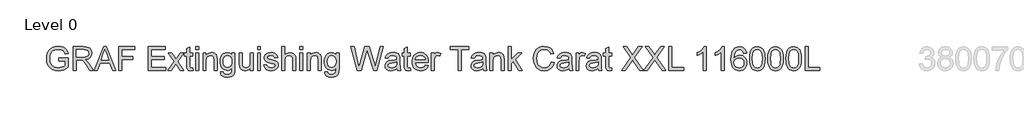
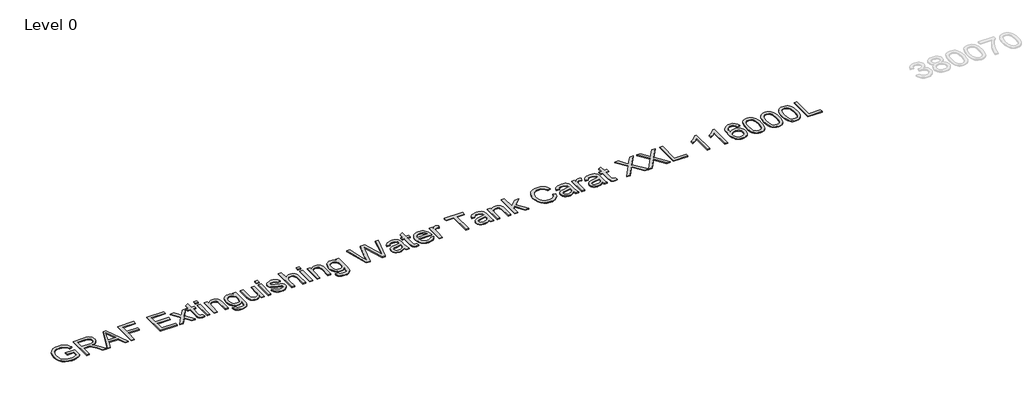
# One storey, part 20 of 37: 1 proxy.
"""IFC4 building model written with IfcOpenShell, lengths in millimetres."""

from ifc_helpers import new_model, si_unit, origin, origin_with_axes, place, context, project, spatial, polyline, outline, extrude, element, save

model = new_model("IFC4")

# Units and contexts
model_context = context("Model", 3, world=origin())
ifc_project = project(units=[si_unit("LENGTHUNIT", "METRE", prefix="MILLI")], contexts=[model_context])

# Site, building, storey
site = spatial("IfcSite", under=ifc_project)
building = spatial("IfcBuilding", under=site)
storey = spatial("IfcBuildingStorey", under=building, Name="Level 0", Elevation=0.0)

# Proxy
placement = place(None, origin())
element("IfcBuildingElementProxy", 1, Name="300mm Arial", ObjectType="300mm Arial", at=placement, inside=storey, context=model_context, shape_type="SweptSolid", body=[
    extrude(outline(polyline([(16759.0059613, -37583.2545597), (16759.0059613, -37545.5834434), (16881.4370893, -37545.5834434), (16881.4370893, -37658.2289103), (16851.6846329, -37678.9222726), (16820.9940775, -37693.7663111), (16789.4389993, -37702.7058436), (16757.0929749, -37705.6856877), (16714.8325307, -37700.949207), (16676.6371825, -37686.739765), (16644.9073605, -37663.5540022), (16622.0434945, -37631.8885595), (16608.2203285, -37593.9047435), (16603.6126065, -37551.7638609), (16608.2019344, -37509.3194757), (16621.9699181, -37469.8365406), (16644.3463404, -37436.717964), (16674.7609844, -37413.3666543), (16711.8067013, -37399.5158972), (16754.0763425, -37394.8989782), (16785.1071888, -37397.5753197), (16813.0110382, -37405.6043443), (16836.5095006, -37418.4066377), (16854.3241862, -37435.4027859), (16867.5035587, -37457.4113262), (16877.0960817, -37485.2507962), (16842.3680214, -37495.0364573), (16834.6149083, -37475.1800266), (16825.1879322, -37460.1980323), (16812.7167326, -37448.9040551), (16795.830949, -37440.1116754), (16775.6986068, -37434.4554897), (16753.4877313, -37432.5700945), (16727.4876713, -37434.6026425), (16705.2584018, -37440.7002866), (16686.8826961, -37450.0996716), (16672.4433278, -37462.0374423), (16653.0559467, -37491.0633317), (16644.2267788, -37519.50061), (16641.2837228, -37550.2187566), (16644.824587, -37586.2436009), (16655.4471796, -37615.8856927), (16672.8296039, -37638.9334997), (16696.6499631, -37655.1754898), (16724.5262213, -37664.804801), (16754.0763425, -37668.0145714), (16780.168373, -37665.5957473), (16805.6166101, -37658.3392749), (16827.7171209, -37648.3420817), (16843.765973, -37637.701095), (16843.765973, -37583.2545597), (16759.0059613, -37583.2545597)])), origin_with_axes(), (0.0, 0.0, 1.0), 10.0),
    extrude(outline(polyline([(16942.6526533, -37700.9767982), (16942.6526533, -37399.6078677), (17072.5149976, -37399.6078677), (17107.4178018, -37401.6404158), (17132.8108566, -37407.7380598), (17151.3705032, -37418.9952489), (17165.7730833, -37436.5064318), (17175.0161185, -37458.2206666), (17178.0971302, -37482.087011), (17172.9927675, -37511.7750881), (17157.6796794, -37536.3863935), (17146.0799003, -37546.4157764), (17131.6980135, -37554.4310054), (17094.5879173, -37564.4190016), (17115.9986494, -37580.532233), (17146.532855, -37619.3069952), (17196.7855355, -37700.9767982), (17153.0075781, -37700.9767982), (17113.7913574, -37638.5104354), (17085.4644438, -37597.1604991), (17065.5620278, -37577.6259652), (17047.6461747, -37570.4522663), (17025.7939842, -37569.1278911), (16980.3237696, -37569.1278911), (16980.3237696, -37700.9767982), (16942.6526533, -37700.9767982)]), holes=[polyline([(16980.3237696, -37531.4567748), (17064.6423229, -37531.4567748), (17088.8581552, -37530.1232026), (17107.6477281, -37526.1224859), (17121.7927908, -37519.1879103), (17132.0750926, -37509.0527613), (17138.3382835, -37496.7930938), (17140.4260139, -37483.4849626), (17136.4436913, -37465.109257), (17124.4967235, -37450.3020067), (17103.941317, -37440.5347397), (17074.1336783, -37437.278984), (16980.3237696, -37437.278984), (16980.3237696, -37531.4567748)])]), origin_with_axes(), (0.0, 0.0, 1.0), 10.0),
    extrude(outline(polyline([(17208.9256414, -37700.9767982), (17329.2230538, -37399.6078677), (17361.3023638, -37399.6078677), (17481.5997762, -37700.9767982), (17441.7949443, -37700.9767982), (17407.2876132, -37606.7990074), (17283.164228, -37606.7990074), (17248.7304732, -37700.9767982), (17208.9256414, -37700.9767982)]), holes=[polyline([(17296.996591, -37569.1278911), (17393.5288265, -37569.1278911), (17366.3791353, -37495.0364573), (17345.2627088, -37437.278984), (17326.500727, -37488.5617342), (17296.996591, -37569.1278911)])]), origin_with_axes(), (0.0, 0.0, 1.0), 10.0),
    extrude(outline(polyline([(17521.8460665, -37700.9767982), (17521.8460665, -37399.6078677), (17724.3283166, -37399.6078677), (17724.3283166, -37437.278984), (17559.5171828, -37437.278984), (17559.5171828, -37526.7478853), (17700.7838689, -37526.7478853), (17700.7838689, -37564.4190016), (17559.5171828, -37564.4190016), (17559.5171828, -37700.9767982), (17521.8460665, -37700.9767982)])), origin_with_axes(), (0.0, 0.0, 1.0), 10.0),
    extrude(outline(polyline([(17893.84834, -37700.9767982), (17893.84834, -37399.6078677), (18110.4572587, -37399.6078677), (18110.4572587, -37437.278984), (17931.5194563, -37437.278984), (17931.5194563, -37526.7478853), (18101.0394797, -37526.7478853), (18101.0394797, -37564.4190016), (17931.5194563, -37564.4190016), (17931.5194563, -37663.3056819), (18115.1661483, -37663.3056819), (18115.1661483, -37700.9767982), (17893.84834, -37700.9767982)])), origin_with_axes(), (0.0, 0.0, 1.0), 10.0),
    extrude(outline(polyline([(18143.4194855, -37700.9767982), (18223.9120661, -37589.7292828), (18148.1283751, -37479.6589899), (18193.4514369, -37479.6589899), (18230.0189072, -37532.6339972), (18247.0886318, -37557.6499729), (18261.877488, -37537.1957339), (18303.5217298, -37479.6589899), (18348.8447916, -37479.6589899), (18269.2351279, -37589.7292828), (18345.9017357, -37700.9767982), (18300.5786739, -37700.9767982), (18254.4462717, -37634.0958515), (18245.9849858, -37621.8821692), (18188.7425473, -37700.9767982), (18143.4194855, -37700.9767982)])), origin_with_axes(), (0.0, 0.0, 1.0), 10.0),
    extrude(outline(polyline([(18458.9150846, -37669.5596758), (18463.6239741, -37702.0804442), (18435.4442133, -37705.6856877), (18417.3628132, -37704.1221892), (18403.8799381, -37699.4316938), (18394.3517944, -37692.2028126), (18388.1345887, -37683.0241568), (18384.7132861, -37667.2604133), (18383.572852, -37640.276269), (18383.572852, -37517.3301062), (18355.3195147, -37517.3301062), (18355.3195147, -37479.6589899), (18383.572852, -37479.6589899), (18383.572852, -37425.8746422), (18421.2439683, -37403.7281461), (18421.2439683, -37479.6589899), (18458.9150846, -37479.6589899), (18458.9150846, -37517.3301062), (18421.2439683, -37517.3301062), (18421.2439683, -37639.172623), (18423.230531, -37658.5967923), (18429.668466, -37665.4761856), (18442.5075476, -37668.0145714), (18458.9150846, -37669.5596758)])), origin_with_axes(), (0.0, 0.0, 1.0), 10.0),
    extrude(outline(polyline([(18496.5862009, -37437.278984), (18496.5862009, -37399.6078677), (18534.2573172, -37399.6078677), (18534.2573172, -37437.278984), (18496.5862009, -37437.278984)])), origin_with_axes(), (0.0, 0.0, 1.0), 10.0),
    extrude(outline(polyline([(18496.5862009, -37700.9767982), (18496.5862009, -37479.6589899), (18534.2573172, -37479.6589899), (18534.2573172, -37700.9767982), (18496.5862009, -37700.9767982)])), origin_with_axes(), (0.0, 0.0, 1.0), 10.0),
    extrude(outline(polyline([(18590.7639916, -37700.9767982), (18590.7639916, -37479.6589899), (18628.435108, -37479.6589899), (18628.435108, -37510.5610775), (18641.5225099, -37494.981275), (18657.2402682, -37483.8528446), (18675.5883827, -37477.1757864), (18696.5668535, -37474.9501003), (18715.1356972, -37476.7435251), (18732.1410424, -37482.1237992), (18746.3228933, -37490.4195382), (18756.4212541, -37500.9593574), (18767.7152313, -37528.6608716), (18769.7017941, -37565.0811892), (18769.7017941, -37700.9767982), (18732.0306778, -37700.9767982), (18732.0306778, -37570.1579607), (18727.6896703, -37536.8278519), (18721.6839967, -37526.9042351), (18712.3489911, -37519.2063044), (18700.3836292, -37514.2674886), (18686.4868868, -37512.6212166), (18664.4231641, -37516.3184307), (18645.6151971, -37527.4100729), (18638.0989081, -37536.4645685), (18632.7301302, -37548.8391991), (18628.435108, -37583.5488653), (18628.435108, -37700.9767982), (18590.7639916, -37700.9767982)])), origin_with_axes(), (0.0, 0.0, 1.0), 10.0),
    extrude(outline(polyline([(18812.0817999, -37719.8123563), (18849.7529163, -37724.5212459), (18853.9099828, -37736.2934697), (18861.9665985, -37744.3868736), (18877.8039184, -37750.6776557), (18898.5340688, -37752.7745831), (18920.6437767, -37750.4017442), (18937.0881019, -37743.2832276), (18948.4924438, -37731.8788858), (18955.4822017, -37716.6485712), (18958.0573756, -37672.7234609), (18945.5217966, -37685.084296), (18931.5330838, -37693.9134639), (18916.091237, -37699.2109646), (18899.1962564, -37700.9767982), (18878.5419816, -37698.9212575), (18860.3571148, -37692.7546356), (18844.6416558, -37682.4769323), (18831.3956047, -37668.0881478), (18820.8856759, -37650.8252852), (18813.378584, -37631.9253477), (18808.8743288, -37611.3883353), (18807.3729104, -37589.214248), (18810.067646, -37558.7996041), (18818.1518529, -37530.8313754), (18831.3404224, -37507.1305779), (18849.3482461, -37489.5182274), (18871.5591215, -37478.5921321), (18897.3568464, -37474.9501003), (18914.9737955, -37477.0102395), (18930.9628667, -37483.190657), (18945.3240601, -37493.4913529), (18958.0573756, -37507.9123271), (18958.0573756, -37479.6589899), (18995.7284919, -37479.6589899), (18995.7284919, -37670.7368982), (18993.153318, -37714.8551464), (18985.4277961, -37743.908627), (18972.1196649, -37763.1764465), (18952.7966631, -37777.9377116), (18927.881855, -37787.3187024), (18897.7983048, -37790.4456994), (18862.7483477, -37786.0403125), (18835.148001, -37772.8241518), (18824.7530354, -37762.9028343), (18817.44368, -37750.7604292), (18813.2199349, -37736.3969365), (18812.0817999, -37719.8123563)]), holes=[polyline([(18845.0440267, -37586.6390741), (18849.0631375, -37621.1923905), (18861.1204699, -37644.9483703), (18879.2478552, -37658.716354), (18901.4771248, -37663.3056819), (18923.5408474, -37658.7439451), (18941.7602032, -37645.0587349), (18953.9830825, -37621.6062577), (18958.0573756, -37587.7427201), (18953.8635209, -37555.0839959), (18941.2819567, -37531.5671394), (18922.7958864, -37517.3576973), (18900.8885136, -37512.6212166), (18879.3766139, -37517.2841209), (18861.3411991, -37531.2728338), (18849.1183198, -37554.4402024), (18845.0440267, -37586.6390741)])]), origin_with_axes(), (0.0, 0.0, 1.0), 10.0),
    extrude(outline(polyline([(19193.5018525, -37700.9767982), (19193.5018525, -37662.9377999), (19179.8718246, -37681.6400008), (19163.9977165, -37694.9987158), (19145.8795283, -37703.0139447), (19125.5172598, -37705.6856877), (19107.1691453, -37703.8094895), (19090.0902237, -37698.180895), (19075.76122, -37689.7196091), (19065.6628592, -37679.3453369), (19054.4424584, -37651.6070344), (19052.2351664, -37616.5846685), (19052.2351664, -37479.6589899), (19089.9062827, -37479.6589899), (19089.9062827, -37598.8527563), (19092.1871511, -37637.2596366), (19097.6777899, -37650.0711271), (19107.0863719, -37659.8108029), (19119.7874978, -37665.9636293), (19135.1557681, -37668.0145714), (19151.4069552, -37665.917644), (19166.6096787, -37659.6268619), (19179.1452577, -37649.7216392), (19187.3950114, -37636.78139), (19191.9751423, -37619.0586749), (19193.5018525, -37594.8060544), (19193.5018525, -37479.6589899), (19231.1729689, -37479.6589899), (19231.1729689, -37700.9767982), (19193.5018525, -37700.9767982)])), origin_with_axes(), (0.0, 0.0, 1.0), 10.0),
    extrude(outline(polyline([(19282.9707538, -37437.278984), (19282.9707538, -37399.6078677), (19320.6418701, -37399.6078677), (19320.6418701, -37437.278984), (19282.9707538, -37437.278984)])), origin_with_axes(), (0.0, 0.0, 1.0), 10.0),
    extrude(outline(polyline([(19282.9707538, -37700.9767982), (19282.9707538, -37479.6589899), (19320.6418701, -37479.6589899), (19320.6418701, -37700.9767982), (19282.9707538, -37700.9767982)])), origin_with_axes(), (0.0, 0.0, 1.0), 10.0),
    extrude(outline(polyline([(19363.0218759, -37635.0523446), (19400.6929922, -37630.3434551), (19406.6342865, -37646.4566865), (19418.1305988, -37658.3024867), (19435.2555057, -37665.5865502), (19458.0825835, -37668.0145714), (19480.6337498, -37665.7888853), (19496.4894638, -37659.1118271), (19505.8704547, -37649.4365307), (19508.9974516, -37638.2161298), (19505.8520606, -37628.6144097), (19496.4158874, -37621.293558), (19457.6411251, -37610.5514038), (19400.9137214, -37592.1205158), (19386.5571266, -37582.8590866), (19376.1552632, -37570.5994191), (19369.8368899, -37556.1232626), (19367.7307655, -37540.2123663), (19369.4230226, -37525.6166481), (19374.4997942, -37512.1429701), (19382.5012276, -37500.324761), (19392.9674703, -37490.6954497), (19416.9165882, -37479.5486253), (19449.326992, -37474.9501003), (19473.846327, -37476.7987074), (19495.1650886, -37482.3445284), (19512.3083896, -37491.0449376), (19524.3013426, -37502.357309), (19532.2475937, -37517.118574), (19537.2507888, -37536.1656643), (19499.5796725, -37540.8745539), (19494.8247977, -37529.0195566), (19485.4162157, -37520.0892211), (19471.261956, -37514.4882178), (19452.270048, -37512.6212166), (19430.6385866, -37514.4054443), (19416.2176124, -37519.7581274), (19408.1058144, -37527.4836493), (19405.4018818, -37536.3863935), (19409.8900421, -37547.349277), (19423.9431343, -37555.6634101), (19456.3903263, -37563.6832376), (19511.6829902, -37581.4151497), (19526.2879054, -37589.8948297), (19537.3611534, -37601.5015067), (19544.3417143, -37616.2719688), (19546.6685679, -37634.2430043), (19543.9370441, -37652.821045), (19535.7424727, -37670.2954398), (19522.3975533, -37685.2958281), (19504.2149857, -37696.4518496), (19482.2524306, -37703.3772282), (19457.5675487, -37705.6856877), (19419.5837327, -37701.2343156), (19391.8638243, -37687.8801992), (19373.35936, -37665.7704912), (19363.0218759, -37635.0523446)])), origin_with_axes(), (0.0, 0.0, 1.0), 10.0),
    extrude(outline(polyline([(19589.0485738, -37700.9767982), (19589.0485738, -37399.6078677), (19626.7196901, -37399.6078677), (19626.7196901, -37510.4139247), (19640.5566516, -37494.8985015), (19656.0950674, -37483.8160564), (19673.3349374, -37477.1665894), (19692.2762616, -37474.9501003), (19715.029763, -37477.3689245), (19734.5826911, -37484.6253968), (19749.9785526, -37496.1493003), (19760.2608543, -37511.3704179), (19766.0549957, -37532.2845093), (19767.9863762, -37560.8873344), (19767.9863762, -37700.9767982), (19730.3152599, -37700.9767982), (19730.3152599, -37564.7868836), (19727.3170216, -37541.2056477), (19718.3223069, -37525.0556281), (19703.8277563, -37515.7298195), (19684.3300105, -37512.6212166), (19668.4099172, -37514.718144), (19653.4647111, -37521.0089261), (19641.085482, -37530.8865577), (19632.8633194, -37543.7440334), (19628.2555974, -37560.8321521), (19626.7196901, -37583.4017125), (19626.7196901, -37700.9767982), (19589.0485738, -37700.9767982)])), origin_with_axes(), (0.0, 0.0, 1.0), 10.0),
    extrude(outline(polyline([(19819.7841611, -37437.278984), (19819.7841611, -37399.6078677), (19857.4552774, -37399.6078677), (19857.4552774, -37437.278984), (19819.7841611, -37437.278984)])), origin_with_axes(), (0.0, 0.0, 1.0), 10.0),
    extrude(outline(polyline([(19819.7841611, -37700.9767982), (19819.7841611, -37479.6589899), (19857.4552774, -37479.6589899), (19857.4552774, -37700.9767982), (19819.7841611, -37700.9767982)])), origin_with_axes(), (0.0, 0.0, 1.0), 10.0),
    extrude(outline(polyline([(19913.9619519, -37700.9767982), (19913.9619519, -37479.6589899), (19951.6330682, -37479.6589899), (19951.6330682, -37510.5610775), (19964.7204702, -37494.981275), (19980.4382284, -37483.8528446), (19998.7863429, -37477.1757864), (20019.7648137, -37474.9501003), (20038.3336574, -37476.7435251), (20055.3390026, -37482.1237992), (20069.5208536, -37490.4195382), (20079.6192143, -37500.9593574), (20090.9131916, -37528.6608716), (20092.8997544, -37565.0811892), (20092.8997544, -37700.9767982), (20055.228638, -37700.9767982), (20055.228638, -37570.1579607), (20050.8876305, -37536.8278519), (20044.8819569, -37526.9042351), (20035.5469513, -37519.2063044), (20023.5815894, -37514.2674886), (20009.684847, -37512.6212166), (19987.6211244, -37516.3184307), (19968.8131574, -37527.4100729), (19961.2968684, -37536.4645685), (19955.9280905, -37548.8391991), (19951.6330682, -37583.5488653), (19951.6330682, -37700.9767982), (19913.9619519, -37700.9767982)])), origin_with_axes(), (0.0, 0.0, 1.0), 10.0),
    extrude(outline(polyline([(20135.2797602, -37719.8123563), (20172.9508765, -37724.5212459), (20177.1079431, -37736.2934697), (20185.1645587, -37744.3868736), (20201.0018786, -37750.6776557), (20221.7320291, -37752.7745831), (20243.841737, -37750.4017442), (20260.2860622, -37743.2832276), (20271.690404, -37731.8788858), (20278.6801619, -37716.6485712), (20281.2553359, -37672.7234609), (20268.7197569, -37685.084296), (20254.731044, -37693.9134639), (20239.2891973, -37699.2109646), (20222.3942167, -37700.9767982), (20201.7399419, -37698.9212575), (20183.555075, -37692.7546356), (20167.839616, -37682.4769323), (20154.5935649, -37668.0881478), (20144.0836362, -37650.8252852), (20136.5765442, -37631.9253477), (20132.0722891, -37611.3883353), (20130.5708707, -37589.214248), (20133.2656063, -37558.7996041), (20141.3498131, -37530.8313754), (20154.5383826, -37507.1305779), (20172.5462063, -37489.5182274), (20194.7570818, -37478.5921321), (20220.5548067, -37474.9501003), (20238.1717557, -37477.0102395), (20254.1608269, -37483.190657), (20268.5220203, -37493.4913529), (20281.2553359, -37507.9123271), (20281.2553359, -37479.6589899), (20318.9264522, -37479.6589899), (20318.9264522, -37670.7368982), (20316.3512782, -37714.8551464), (20308.6257563, -37743.908627), (20295.3176252, -37763.1764465), (20275.9946234, -37777.9377116), (20251.0798152, -37787.3187024), (20220.9962651, -37790.4456994), (20185.946308, -37786.0403125), (20158.3459613, -37772.8241518), (20147.9509957, -37762.9028343), (20140.6416403, -37750.7604292), (20136.4178951, -37736.3969365), (20135.2797602, -37719.8123563)]), holes=[polyline([(20168.241987, -37586.6390741), (20172.2610978, -37621.1923905), (20184.3184302, -37644.9483703), (20202.4458155, -37658.716354), (20224.675085, -37663.3056819), (20246.7388077, -37658.7439451), (20264.9581635, -37645.0587349), (20277.1810428, -37621.6062577), (20281.2553359, -37587.7427201), (20277.0614811, -37555.0839959), (20264.4799169, -37531.5671394), (20245.9938466, -37517.3576973), (20224.0864738, -37512.6212166), (20202.5745742, -37517.2841209), (20184.5391594, -37531.2728338), (20172.3162801, -37554.4402024), (20168.241987, -37586.6390741)])]), origin_with_axes(), (0.0, 0.0, 1.0), 10.0),
    extrude(outline(polyline([(20551.7957551, -37700.9767982), (20469.6109174, -37399.6078677), (20508.4592561, -37399.6078677), (20556.1367627, -37597.6755339), (20570.8520425, -37658.8175215), (20586.5973919, -37604.7388682), (20646.3414279, -37399.6078677), (20702.3330676, -37399.6078677), (20745.743143, -37548.3057702), (20764.3395779, -37603.4880695), (20778.0431822, -37658.8175215), (20792.3170036, -37599.4413675), (20840.4359686, -37399.6078677), (20879.2843072, -37399.6078677), (20797.0258931, -37700.9767982), (20756.7796029, -37700.9767982), (20684.527579, -37468.4753772), (20674.4476123, -37436.0281853), (20663.1168469, -37475.0972531), (20597.2659697, -37700.9767982), (20551.7957551, -37700.9767982)])), origin_with_axes(), (0.0, 0.0, 1.0), 10.0),
    extrude(outline(polyline([(21053.5132202, -37672.7234609), (21035.5145935, -37688.1561106), (21016.982538, -37698.2544714), (20997.4939893, -37703.8278836), (20976.6258832, -37705.6856877), (20945.1443814, -37701.2159215), (20921.9218305, -37687.8066228), (20907.6020238, -37667.4443543), (20902.8287549, -37642.115679), (20904.6313767, -37626.4990883), (20910.039242, -37612.3172373), (20918.3809663, -37600.1771315), (20928.9851648, -37590.685776), (20955.3623038, -37578.324941), (20987.9566486, -37572.6595583), (21026.4738935, -37566.6998699), (21053.292491, -37559.710112), (21053.5132202, -37551.3224025), (21050.9196521, -37534.5101954), (21043.1389479, -37523.5105237), (21025.7381295, -37515.3435434), (21001.494706, -37512.6212166), (20979.0539043, -37514.4330355), (20963.3821313, -37519.868492), (20952.6951594, -37529.9208675), (20945.2087608, -37545.5834434), (20907.5376445, -37540.8745539), (20914.0767469, -37520.2731621), (20923.8348169, -37504.0863544), (20937.7223622, -37491.7071252), (20956.6498908, -37482.5284694), (20979.7988654, -37476.8446926), (21006.3507484, -37474.9501003), (21031.8173795, -37476.6239634), (21052.004904, -37481.6455527), (21067.2260215, -37489.1963306), (21077.7934318, -37498.4577598), (21084.8015838, -37509.9080869), (21089.3449265, -37524.0255585), (21091.1843365, -37556.9877853), (21091.1843365, -37603.8559515), (21093.0973228, -37669.3021584), (21100.6021155, -37700.9767982), (21062.9309992, -37700.9767982), (21053.5132202, -37672.7234609)]), holes=[polyline([(21053.5132202, -37597.3812283), (20992.7391146, -37608.932723), (20960.3287108, -37615.0395641), (20945.6502192, -37624.972378), (20940.4998712, -37639.4669286), (20943.3049715, -37650.6689353), (20951.7202721, -37659.8475911), (20965.5618322, -37665.9728263), (20984.6457107, -37668.0145714), (21004.8792204, -37665.7612942), (21022.7582854, -37659.0014625), (21037.252836, -37649.0410575), (21047.3328026, -37637.1860602), (21051.8025689, -37624.972378), (21053.292491, -37608.0498062), (21053.5132202, -37597.3812283)])]), origin_with_axes(), (0.0, 0.0, 1.0), 10.0),
    extrude(outline(polyline([(21223.0332435, -37669.5596758), (21227.7421331, -37702.0804442), (21199.5623722, -37705.6856877), (21181.4809722, -37704.1221892), (21167.9980971, -37699.4316938), (21158.4699534, -37692.2028126), (21152.2527477, -37683.0241568), (21148.8314451, -37667.2604133), (21147.6910109, -37640.276269), (21147.6910109, -37517.3301062), (21119.4376737, -37517.3301062), (21119.4376737, -37479.6589899), (21147.6910109, -37479.6589899), (21147.6910109, -37425.8746422), (21185.3621272, -37403.7281461), (21185.3621272, -37479.6589899), (21223.0332435, -37479.6589899), (21223.0332435, -37517.3301062), (21185.3621272, -37517.3301062), (21185.3621272, -37639.172623), (21187.34869, -37658.5967923), (21193.7866249, -37665.4761856), (21206.6257066, -37668.0145714), (21223.0332435, -37669.5596758)])), origin_with_axes(), (0.0, 0.0, 1.0), 10.0),
    extrude(outline(polyline([(21415.6562562, -37635.0523446), (21452.5916085, -37639.7612342), (21439.2834774, -37667.5915071), (21418.0474892, -37688.3952339), (21389.3618906, -37701.3630743), (21353.7049282, -37705.6856877), (21330.330626, -37703.8209859), (21309.5039065, -37698.2268803), (21291.2247699, -37688.9033709), (21275.493216, -37675.8504579), (21262.8426739, -37659.4314246), (21253.8065724, -37640.0095545), (21248.3849115, -37617.5848477), (21246.5776912, -37592.157304), (21248.4033056, -37565.8675369), (21253.8801488, -37542.6955698), (21263.0082208, -37522.6414025), (21275.7875216, -37505.7050351), (21291.4776887, -37492.2497512), (21309.3383596, -37482.638834), (21329.3695342, -37476.8722838), (21351.5712127, -37474.9501003), (21373.0578204, -37476.8676852), (21392.4888876, -37482.6204399), (21409.8644141, -37492.2083644), (21425.1843999, -37505.6314587), (21437.6900885, -37522.5310379), (21446.6227232, -37542.548417), (21451.982304, -37565.6835959), (21453.7688309, -37591.9365748), (21453.5481017, -37602.0901179), (21284.2488075, -37602.0901179), (21290.7695159, -37630.2882728), (21305.9170571, -37651.0184232), (21327.7784446, -37663.7655344), (21354.4406922, -37668.0145714), (21374.490261, -37666.0464027), (21391.3760445, -37660.1418967), (21405.098043, -37649.9331713), (21415.6562562, -37635.0523446)]), holes=[polyline([(21284.2488075, -37564.4190016), (21416.0977146, -37564.4190016), (21411.002549, -37544.5165856), (21401.0145528, -37530.2795524), (21379.0519977, -37517.0358006), (21351.4240599, -37512.6212166), (21326.0310051, -37516.1436868), (21305.0341403, -37526.7110971), (21290.4384221, -37543.1830134), (21284.2488075, -37564.4190016)])]), origin_with_axes(), (0.0, 0.0, 1.0), 10.0),
    extrude(outline(polyline([(21491.4399472, -37700.9767982), (21491.4399472, -37479.6589899), (21524.402174, -37479.6589899), (21524.402174, -37512.4004875), (21536.579068, -37493.4177765), (21547.7994689, -37482.2341638), (21559.0566579, -37476.7711162), (21571.3439166, -37474.9501003), (21590.1058983, -37477.8563681), (21609.1621857, -37486.5751714), (21596.5806214, -37520.3467385), (21583.3368696, -37514.5525971), (21570.0931178, -37512.6212166), (21558.8451258, -37514.4790207), (21548.7927503, -37520.052433), (21540.6717552, -37528.918389), (21535.2179046, -37540.6538247), (21530.6377738, -37561.6966748), (21529.1110635, -37584.6525113), (21529.1110635, -37700.9767982), (21491.4399472, -37700.9767982)])), origin_with_axes(), (0.0, 0.0, 1.0), 10.0),
    extrude(outline(polyline([(21830.479994, -37700.9767982), (21830.479994, -37437.278984), (21731.5933137, -37437.278984), (21731.5933137, -37399.6078677), (21967.0377906, -37399.6078677), (21967.0377906, -37437.278984), (21868.1511103, -37437.278984), (21868.1511103, -37700.9767982), (21830.479994, -37700.9767982)])), origin_with_axes(), (0.0, 0.0, 1.0), 10.0),
    extrude(outline(polyline([(22145.975593, -37672.7234609), (22127.9769664, -37688.1561106), (22109.4449109, -37698.2544714), (22089.9563622, -37703.8278836), (22069.088256, -37705.6856877), (22037.6067543, -37701.2159215), (22014.3842034, -37687.8066228), (22000.0643967, -37667.4443543), (21995.2911278, -37642.115679), (21997.0937496, -37626.4990883), (22002.5016149, -37612.3172373), (22010.8433392, -37600.1771315), (22021.4475377, -37590.685776), (22047.8246767, -37578.324941), (22080.4190215, -37572.6595583), (22118.9362664, -37566.6998699), (22145.7548638, -37559.710112), (22145.975593, -37551.3224025), (22143.382025, -37534.5101954), (22135.6013208, -37523.5105237), (22118.2005024, -37515.3435434), (22093.9570789, -37512.6212166), (22071.5162772, -37514.4330355), (22055.8445042, -37519.868492), (22045.1575323, -37529.9208675), (22037.6711337, -37545.5834434), (22000.0000174, -37540.8745539), (22006.5391198, -37520.2731621), (22016.2971897, -37504.0863544), (22030.1847351, -37491.7071252), (22049.1122637, -37482.5284694), (22072.2612383, -37476.8446926), (22098.8131213, -37474.9501003), (22124.2797524, -37476.6239634), (22144.4672769, -37481.6455527), (22159.6883944, -37489.1963306), (22170.2558047, -37498.4577598), (22177.2639567, -37509.9080869), (22181.8072994, -37524.0255585), (22183.6467093, -37556.9877853), (22183.6467093, -37603.8559515), (22185.5596957, -37669.3021584), (22193.0644884, -37700.9767982), (22155.3933721, -37700.9767982), (22145.975593, -37672.7234609)]), holes=[polyline([(22145.975593, -37597.3812283), (22085.2014874, -37608.932723), (22052.7910837, -37615.0395641), (22038.1125921, -37624.972378), (22032.9622441, -37639.4669286), (22035.7673443, -37650.6689353), (22044.182645, -37659.8475911), (22058.024205, -37665.9728263), (22077.1080835, -37668.0145714), (22097.3415933, -37665.7612942), (22115.2206582, -37659.0014625), (22129.7152089, -37649.0410575), (22139.7951755, -37637.1860602), (22144.2649418, -37624.972378), (22145.7548638, -37608.0498062), (22145.975593, -37597.3812283)])]), origin_with_axes(), (0.0, 0.0, 1.0), 10.0),
    extrude(outline(polyline([(22235.4444943, -37700.9767982), (22235.4444943, -37479.6589899), (22273.1156106, -37479.6589899), (22273.1156106, -37510.5610775), (22286.2030125, -37494.981275), (22301.9207708, -37483.8528446), (22320.2688853, -37477.1757864), (22341.2473561, -37474.9501003), (22359.8161998, -37476.7435251), (22376.821545, -37482.1237992), (22391.0033959, -37490.4195382), (22401.1017567, -37500.9593574), (22412.3957339, -37528.6608716), (22414.3822967, -37565.0811892), (22414.3822967, -37700.9767982), (22376.7111804, -37700.9767982), (22376.7111804, -37570.1579607), (22372.3701729, -37536.8278519), (22366.3644993, -37526.9042351), (22357.0294937, -37519.2063044), (22345.0641318, -37514.2674886), (22331.1673894, -37512.6212166), (22309.1036667, -37516.3184307), (22290.2956997, -37527.4100729), (22282.7794107, -37536.4645685), (22277.4106329, -37548.8391991), (22273.1156106, -37583.5488653), (22273.1156106, -37700.9767982), (22235.4444943, -37700.9767982)])), origin_with_axes(), (0.0, 0.0, 1.0), 10.0),
    extrude(outline(polyline([(22466.1800816, -37700.9767982), (22466.1800816, -37399.6078677), (22503.8511979, -37399.6078677), (22503.8511979, -37561.549522), (22588.316904, -37479.6589899), (22640.4089946, -37479.6589899), (22554.9132189, -37562.5795916), (22645.1178841, -37700.9767982), (22601.1191975, -37700.9767982), (22527.9106804, -37588.7727896), (22503.8511979, -37612.0965081), (22503.8511979, -37700.9767982), (22466.1800816, -37700.9767982)])), origin_with_axes(), (0.0, 0.0, 1.0), 10.0),
    extrude(outline(polyline([(23012.4112681, -37593.8495612), (23050.0823844, -37603.5616459), (23042.6281755, -37626.9888312), (23032.6999601, -37647.4591649), (23020.2977383, -37664.9726472), (23005.4215102, -37679.5292779), (22988.4069679, -37690.9727072), (22969.5898038, -37699.1465853), (22948.970018, -37704.0509121), (22926.5476104, -37705.6856877), (22882.8524264, -37700.7376749), (22848.1519572, -37685.8936364), (22821.554089, -37661.668607), (22802.1667078, -37628.5776215), (22790.3301046, -37589.6741005), (22786.3845702, -37548.0114646), (22790.8451394, -37504.0679603), (22804.226847, -37466.1209325), (22825.8307172, -37435.3751947), (22854.9577741, -37413.0355606), (22889.5018935, -37399.4331238), (22927.3569508, -37394.8989782), (22968.6609018, -37400.766696), (22986.629638, -37408.1013433), (23002.809548, -37418.3698495), (23016.9339174, -37431.3009016), (23028.7360316, -37446.6231867), (23045.3734948, -37484.4414558), (23007.7023785, -37493.4177765), (22994.6425677, -37465.9461885), (22976.8002909, -37447.1014333), (22953.954819, -37436.2029292), (22925.8854228, -37432.5700945), (22893.5302013, -37436.5984023), (22866.9507272, -37448.6833259), (22846.7815968, -37467.5556722), (22833.6574066, -37491.9462485), (22826.4561166, -37519.5190041), (22824.0556865, -37547.9378882), (22826.897575, -37582.7395249), (22835.4232402, -37612.8322721), (22849.954579, -37637.0664986), (22870.8134881, -37654.292573), (22895.8202668, -37664.5840718), (22922.7952141, -37668.0145714), (22954.2399276, -37663.3424701), (22980.4423227, -37649.3261661), (23000.225177, -37626.1128122), (23012.4112681, -37593.8495612)])), origin_with_axes(), (0.0, 0.0, 1.0), 10.0),
    extrude(outline(polyline([(23238.4379659, -37672.7234609), (23220.4393393, -37688.1561106), (23201.9072838, -37698.2544714), (23182.4187351, -37703.8278836), (23161.5506289, -37705.6856877), (23130.0691272, -37701.2159215), (23106.8465762, -37687.8066228), (23092.5267696, -37667.4443543), (23087.7535007, -37642.115679), (23089.5561225, -37626.4990883), (23094.9639878, -37612.3172373), (23103.305712, -37600.1771315), (23113.9099105, -37590.685776), (23140.2870496, -37578.324941), (23172.8813944, -37572.6595583), (23211.3986393, -37566.6998699), (23238.2172367, -37559.710112), (23238.4379659, -37551.3224025), (23235.8443978, -37534.5101954), (23228.0636936, -37523.5105237), (23210.6628753, -37515.3435434), (23186.4194518, -37512.6212166), (23163.9786501, -37514.4330355), (23148.3068771, -37519.868492), (23137.6199051, -37529.9208675), (23130.1335065, -37545.5834434), (23092.4623902, -37540.8745539), (23099.0014927, -37520.2731621), (23108.7595626, -37504.0863544), (23122.6471079, -37491.7071252), (23141.5746366, -37482.5284694), (23164.7236111, -37476.8446926), (23191.2754941, -37474.9501003), (23216.7421252, -37476.6239634), (23236.9296497, -37481.6455527), (23252.1507673, -37489.1963306), (23262.7181776, -37498.4577598), (23269.7263296, -37509.9080869), (23274.2696722, -37524.0255585), (23276.1090822, -37556.9877853), (23276.1090822, -37603.8559515), (23278.0220686, -37669.3021584), (23285.5268613, -37700.9767982), (23247.855745, -37700.9767982), (23238.4379659, -37672.7234609)]), holes=[polyline([(23238.4379659, -37597.3812283), (23177.6638603, -37608.932723), (23145.2534565, -37615.0395641), (23130.5749649, -37624.972378), (23125.424617, -37639.4669286), (23128.2297172, -37650.6689353), (23136.6450178, -37659.8475911), (23150.4865779, -37665.9728263), (23169.5704564, -37668.0145714), (23189.8039662, -37665.7612942), (23207.6830311, -37659.0014625), (23222.1775817, -37649.0410575), (23232.2575484, -37637.1860602), (23236.7273146, -37624.972378), (23238.2172367, -37608.0498062), (23238.4379659, -37597.3812283)])]), origin_with_axes(), (0.0, 0.0, 1.0), 10.0),
    extrude(outline(polyline([(23327.9068671, -37700.9767982), (23327.9068671, -37479.6589899), (23360.8690939, -37479.6589899), (23360.8690939, -37512.4004875), (23373.0459879, -37493.4177765), (23384.2663888, -37482.2341638), (23395.5235779, -37476.7711162), (23407.8108365, -37474.9501003), (23426.5728182, -37477.8563681), (23445.6291056, -37486.5751714), (23433.0475414, -37520.3467385), (23419.8037895, -37514.5525971), (23406.5600377, -37512.6212166), (23395.3120457, -37514.4790207), (23385.2596702, -37520.052433), (23377.1386751, -37528.918389), (23371.6848246, -37540.6538247), (23367.1046937, -37561.6966748), (23365.5779834, -37584.6525113), (23365.5779834, -37700.9767982), (23327.9068671, -37700.9767982)])), origin_with_axes(), (0.0, 0.0, 1.0), 10.0),
    extrude(outline(polyline([(23610.4402394, -37672.7234609), (23592.4416128, -37688.1561106), (23573.9095573, -37698.2544714), (23554.4210086, -37703.8278836), (23533.5529024, -37705.6856877), (23502.0714007, -37701.2159215), (23478.8488498, -37687.8066228), (23464.5290431, -37667.4443543), (23459.7557742, -37642.115679), (23461.558396, -37626.4990883), (23466.9662613, -37612.3172373), (23475.3079856, -37600.1771315), (23485.9121841, -37590.685776), (23512.2893231, -37578.324941), (23544.8836679, -37572.6595583), (23583.4009128, -37566.6998699), (23610.2195102, -37559.710112), (23610.4402394, -37551.3224025), (23607.8466714, -37534.5101954), (23600.0659672, -37523.5105237), (23582.6651488, -37515.3435434), (23558.4217253, -37512.6212166), (23535.9809236, -37514.4330355), (23520.3091506, -37519.868492), (23509.6221787, -37529.9208675), (23502.1357801, -37545.5834434), (23464.4646638, -37540.8745539), (23471.0037662, -37520.2731621), (23480.7618361, -37504.0863544), (23494.6493815, -37491.7071252), (23513.5769101, -37482.5284694), (23536.7258847, -37476.8446926), (23563.2777677, -37474.9501003), (23588.7443988, -37476.6239634), (23608.9319233, -37481.6455527), (23624.1530408, -37489.1963306), (23634.7204511, -37498.4577598), (23641.7286031, -37509.9080869), (23646.2719458, -37524.0255585), (23648.1113557, -37556.9877853), (23648.1113557, -37603.8559515), (23650.0243421, -37669.3021584), (23657.5291348, -37700.9767982), (23619.8580185, -37700.9767982), (23610.4402394, -37672.7234609)]), holes=[polyline([(23610.4402394, -37597.3812283), (23549.6661338, -37608.932723), (23517.2557301, -37615.0395641), (23502.5772385, -37624.972378), (23497.4268905, -37639.4669286), (23500.2319907, -37650.6689353), (23508.6472914, -37659.8475911), (23522.4888514, -37665.9728263), (23541.5727299, -37668.0145714), (23561.8062397, -37665.7612942), (23579.6853046, -37659.0014625), (23594.1798552, -37649.0410575), (23604.2598219, -37637.1860602), (23608.7295882, -37624.972378), (23610.2195102, -37608.0498062), (23610.4402394, -37597.3812283)])]), origin_with_axes(), (0.0, 0.0, 1.0), 10.0),
    extrude(outline(polyline([(23779.9602628, -37669.5596758), (23784.6691524, -37702.0804442), (23756.4893915, -37705.6856877), (23738.4079915, -37704.1221892), (23724.9251163, -37699.4316938), (23715.3969727, -37692.2028126), (23709.1797669, -37683.0241568), (23705.7584644, -37667.2604133), (23704.6180302, -37640.276269), (23704.6180302, -37517.3301062), (23676.364693, -37517.3301062), (23676.364693, -37479.6589899), (23704.6180302, -37479.6589899), (23704.6180302, -37425.8746422), (23742.2891465, -37403.7281461), (23742.2891465, -37479.6589899), (23779.9602628, -37479.6589899), (23779.9602628, -37517.3301062), (23742.2891465, -37517.3301062), (23742.2891465, -37639.172623), (23744.2757093, -37658.5967923), (23750.7136442, -37665.4761856), (23763.5527258, -37668.0145714), (23779.9602628, -37669.5596758)])), origin_with_axes(), (0.0, 0.0, 1.0), 10.0),
    extrude(outline(polyline([(23907.1002803, -37700.9767982), (24023.2774144, -37536.7542755), (23925.9358385, -37399.6078677), (23971.1117475, -37399.6078677), (24025.9261648, -37476.7895103), (24044.3938409, -37506.8822575), (24066.0253023, -37476.2744755), (24120.2511084, -37399.6078677), (24166.089205, -37399.6078677), (24068.747629, -37537.1957339), (24184.9247631, -37700.9767982), (24139.7488541, -37700.9767982), (24062.3464823, -37591.789422), (24046.2332509, -37569.1278911), (24028.5013388, -37593.996714), (23952.9383769, -37700.9767982), (23907.1002803, -37700.9767982)])), origin_with_axes(), (0.0, 0.0, 1.0), 10.0),
    extrude(outline(polyline([(24189.6336526, -37700.9767982), (24305.8107867, -37536.7542755), (24208.4692108, -37399.6078677), (24253.6451198, -37399.6078677), (24308.4595371, -37476.7895103), (24326.9272132, -37506.8822575), (24348.5586746, -37476.2744755), (24402.7844806, -37399.6078677), (24448.6225772, -37399.6078677), (24351.2810013, -37537.1957339), (24467.4581354, -37700.9767982), (24422.2822264, -37700.9767982), (24344.8798546, -37591.789422), (24328.7666232, -37569.1278911), (24311.0347111, -37593.996714), (24235.4717492, -37700.9767982), (24189.6336526, -37700.9767982)])), origin_with_axes(), (0.0, 0.0, 1.0), 10.0),
    extrude(outline(polyline([(24505.1292517, -37700.9767982), (24505.1292517, -37399.6078677), (24542.800368, -37399.6078677), (24542.800368, -37663.3056819), (24693.4848332, -37663.3056819), (24693.4848332, -37700.9767982), (24505.1292517, -37700.9767982)])), origin_with_axes(), (0.0, 0.0, 1.0), 10.0),
    extrude(outline(polyline([(24980.7270951, -37700.9767982), (24943.0559788, -37700.9767982), (24943.0559788, -37466.1209325), (24907.3714252, -37491.5415783), (24867.7137462, -37510.5610775), (24867.7137462, -37474.9501003), (24897.3006556, -37458.8552631), (24922.9328336, -37439.7070052), (24943.1387522, -37419.3447368), (24956.4468834, -37399.6078677), (24980.7270951, -37399.6078677), (24980.7270951, -37700.9767982)])), origin_with_axes(), (0.0, 0.0, 1.0), 10.0),
    extrude(outline(polyline([(25211.4626824, -37700.9767982), (25173.7915661, -37700.9767982), (25173.7915661, -37466.1209325), (25138.1070126, -37491.5415783), (25098.4493335, -37510.5610775), (25098.4493335, -37474.9501003), (25128.036243, -37458.8552631), (25153.668421, -37439.7070052), (25173.8743396, -37419.3447368), (25187.1824708, -37399.6078677), (25211.4626824, -37399.6078677), (25211.4626824, -37700.9767982)])), origin_with_axes(), (0.0, 0.0, 1.0), 10.0),
    extrude(outline(polyline([(25493.9960547, -37479.6589899), (25456.3249384, -37484.3678794), (25450.2548855, -37465.6978682), (25442.051117, -37452.950757), (25424.9629983, -37441.1969273), (25404.3064243, -37437.278984), (25386.7952413, -37439.5598524), (25370.314128, -37446.4024575), (25356.1598682, -37460.8142347), (25344.5991765, -37480.6522713), (25336.7908812, -37508.7124704), (25333.8938104, -37547.7907354), (25349.0045634, -37530.1599908), (25367.1135546, -37517.7347764), (25387.2091086, -37510.3679394), (25408.2795499, -37507.9123271), (25426.379344, -37509.5907887), (25443.0811866, -37514.6261735), (25458.3850776, -37523.0184815), (25472.291017, -37534.7677128), (25483.8471102, -37549.1748914), (25492.1014625, -37565.5410417), (25497.0540738, -37583.8661635), (25498.7049443, -37604.150257), (25495.5963414, -37631.1252043), (25486.2705328, -37656.131983), (25471.5000707, -37677.34038), (25452.0575073, -37692.9201825), (25428.8257593, -37702.4943114), (25402.6877435, -37705.6856877), (25380.230847, -37703.5703662), (25359.9490527, -37697.2244018), (25341.8423608, -37686.6477945), (25325.9107711, -37671.8405442), (25312.9222375, -37652.1772515), (25303.6447134, -37627.0325171), (25298.0781989, -37596.406341), (25296.2226941, -37560.2987232), (25298.2828333, -37519.8179082), (25304.4632508, -37485.2691903), (25314.7639467, -37456.6525696), (25329.1849209, -37433.9680461), (25344.8153072, -37418.9354681), (25362.938094, -37408.1979123), (25383.5532813, -37401.7553789), (25406.6608691, -37399.6078677), (25439.7150664, -37404.9237626), (25466.1841759, -37420.8714471), (25484.7254285, -37446.2001224), (25493.9960547, -37479.6589899)]), holes=[polyline([(25333.8938104, -37603.5616459), (25336.0735113, -37620.2542914), (25342.6126137, -37636.1927788), (25352.7661568, -37649.8963831), (25365.7891794, -37659.8843793), (25381.5069377, -37665.9820234), (25399.7446876, -37668.0145714), (25424.6043134, -37663.8023226), (25444.1480444, -37651.165576), (25456.8123821, -37631.2999483), (25461.033828, -37605.4010558), (25456.8675644, -37580.54143), (25444.3687736, -37561.5863102), (25424.4939488, -37549.5841601), (25398.1995832, -37545.5834434), (25373.3767456, -37549.5841601), (25352.619004, -37561.5863102), (25338.5751088, -37580.0815775), (25333.8938104, -37603.5616459)])]), origin_with_axes(), (0.0, 0.0, 1.0), 10.0),
    extrude(outline(polyline([(25531.667171, -37552.7203541), (25534.4354831, -37504.4818275), (25542.7404191, -37466.0105679), (25556.4992057, -37436.717964), (25575.6290695, -37416.0154047), (25600.2679661, -37403.709752), (25630.5538514, -37399.6078677), (25653.7672052, -37402.0358889), (25674.552538, -37409.3199524), (25691.9349622, -37421.1749497), (25704.9395908, -37437.3157722), (25714.76204, -37457.6044643), (25722.5979265, -37481.9030701), (25727.7298804, -37512.7591724), (25729.4405317, -37552.7203541), (25726.6998108, -37600.6829692), (25718.4776482, -37639.0622584), (25704.801635, -37668.3824534), (25685.6993624, -37689.1677861), (25661.0052835, -37701.5562123), (25630.5538514, -37705.6856877), (25609.8053068, -37703.892263), (25591.4112071, -37698.5119888), (25575.3715521, -37689.5448652), (25561.6863419, -37676.9908921), (25548.5529546, -37654.2971715), (25539.1719637, -37626.0208417), (25533.5433692, -37592.1619025), (25531.667171, -37552.7203541)]), holes=[polyline([(25569.3382874, -37552.6467777), (25573.7528713, -37611.9033701), (25579.2711012, -37632.1713688), (25586.9966231, -37646.1991691), (25606.7150981, -37662.5607208), (25630.5538514, -37668.0145714), (25654.3926046, -37662.5423267), (25674.1110796, -37646.1255927), (25681.8366015, -37632.0747997), (25687.3548314, -37611.8113996), (25691.7694153, -37552.6467777), (25687.5019842, -37494.7237576), (25682.1676953, -37474.5224375), (25674.6996908, -37460.1612441), (25655.018004, -37442.9995491), (25630.112393, -37437.278984), (25606.5311571, -37442.3189674), (25587.5852343, -37457.4389174), (25579.602195, -37473.0739022), (25573.9000241, -37494.1535405), (25569.3382874, -37552.6467777)])]), origin_with_axes(), (0.0, 0.0, 1.0), 10.0),
    extrude(outline(polyline([(25762.4027584, -37552.7203541), (25765.1710704, -37504.4818275), (25773.4760065, -37466.0105679), (25787.2347931, -37436.717964), (25806.3646568, -37416.0154047), (25831.0035535, -37403.709752), (25861.2894387, -37399.6078677), (25884.5027926, -37402.0358889), (25905.2881253, -37409.3199524), (25922.6705496, -37421.1749497), (25935.6751782, -37437.3157722), (25945.4976274, -37457.6044643), (25953.3335139, -37481.9030701), (25958.4654678, -37512.7591724), (25960.176119, -37552.7203541), (25957.4353982, -37600.6829692), (25949.2132356, -37639.0622584), (25935.5372224, -37668.3824534), (25916.4349498, -37689.1677861), (25891.7408709, -37701.5562123), (25861.2894387, -37705.6856877), (25840.5408942, -37703.892263), (25822.1467944, -37698.5119888), (25806.1071394, -37689.5448652), (25792.4219292, -37676.9908921), (25779.288542, -37654.2971715), (25769.9075511, -37626.0208417), (25764.2789566, -37592.1619025), (25762.4027584, -37552.7203541)]), holes=[polyline([(25800.0738747, -37552.6467777), (25804.4884587, -37611.9033701), (25810.0066886, -37632.1713688), (25817.7322105, -37646.1991691), (25837.4506854, -37662.5607208), (25861.2894387, -37668.0145714), (25885.128192, -37662.5423267), (25904.846667, -37646.1255927), (25912.5721889, -37632.0747997), (25918.0904188, -37611.8113996), (25922.5050027, -37552.6467777), (25918.2375716, -37494.7237576), (25912.9032826, -37474.5224375), (25905.4352781, -37460.1612441), (25885.7535914, -37442.9995491), (25860.8479803, -37437.278984), (25837.2667444, -37442.3189674), (25818.3208217, -37457.4389174), (25810.3377824, -37473.0739022), (25804.6356115, -37494.1535405), (25800.0738747, -37552.6467777)])]), origin_with_axes(), (0.0, 0.0, 1.0), 10.0),
    extrude(outline(polyline([(25993.1383458, -37552.7203541), (25995.9066578, -37504.4818275), (26004.2115939, -37466.0105679), (26017.9703805, -37436.717964), (26037.1002442, -37416.0154047), (26061.7391408, -37403.709752), (26092.0250261, -37399.6078677), (26115.23838, -37402.0358889), (26136.0237127, -37409.3199524), (26153.406137, -37421.1749497), (26166.4107655, -37437.3157722), (26176.2332148, -37457.6044643), (26184.0691013, -37481.9030701), (26189.2010551, -37512.7591724), (26190.9117064, -37552.7203541), (26188.1709855, -37600.6829692), (26179.9488229, -37639.0622584), (26166.2728098, -37668.3824534), (26147.1705372, -37689.1677861), (26122.4764583, -37701.5562123), (26092.0250261, -37705.6856877), (26071.2764816, -37703.892263), (26052.8823818, -37698.5119888), (26036.8427268, -37689.5448652), (26023.1575166, -37676.9908921), (26010.0241294, -37654.2971715), (26000.6431385, -37626.0208417), (25995.014544, -37592.1619025), (25993.1383458, -37552.7203541)]), holes=[polyline([(26030.8094621, -37552.6467777), (26035.224046, -37611.9033701), (26040.742276, -37632.1713688), (26048.4677979, -37646.1991691), (26068.1862728, -37662.5607208), (26092.0250261, -37668.0145714), (26115.8637794, -37662.5423267), (26135.5822543, -37646.1255927), (26143.3077762, -37632.0747997), (26148.8260062, -37611.8113996), (26153.2405901, -37552.6467777), (26148.973159, -37494.7237576), (26143.63887, -37474.5224375), (26136.1708655, -37460.1612441), (26116.4891788, -37442.9995491), (26091.5835677, -37437.278984), (26068.0023318, -37442.3189674), (26049.0564091, -37457.4389174), (26041.0733698, -37473.0739022), (26035.3711988, -37494.1535405), (26030.8094621, -37552.6467777)])]), origin_with_axes(), (0.0, 0.0, 1.0), 10.0),
    extrude(outline(polyline([(26238.0006018, -37700.9767982), (26238.0006018, -37399.6078677), (26275.6717181, -37399.6078677), (26275.6717181, -37663.3056819), (26426.3561833, -37663.3056819), (26426.3561833, -37700.9767982), (26238.0006018, -37700.9767982)])), origin_with_axes(), (0.0, 0.0, 1.0), 10.0),
])

save(model, "model.ifc")
